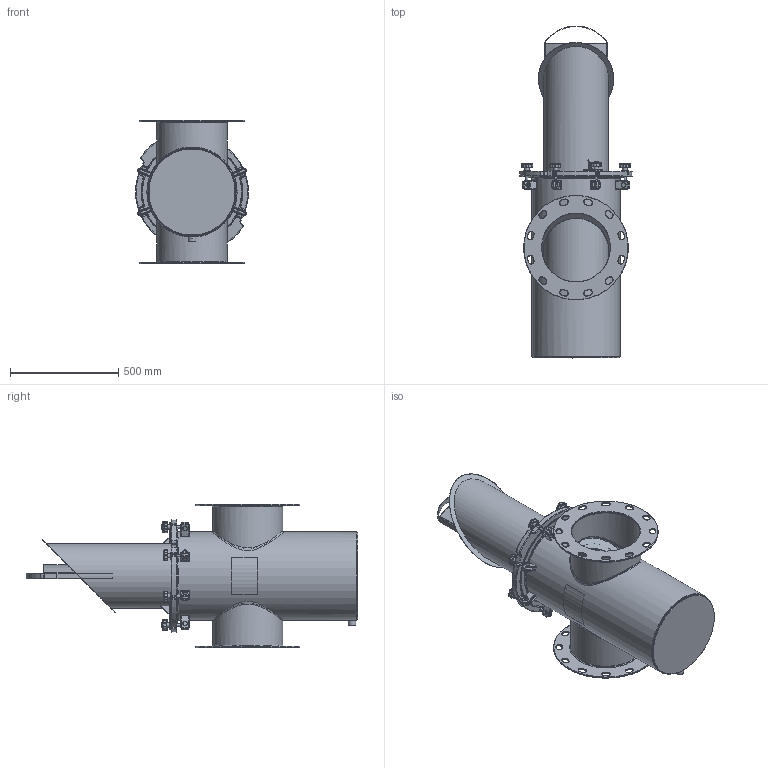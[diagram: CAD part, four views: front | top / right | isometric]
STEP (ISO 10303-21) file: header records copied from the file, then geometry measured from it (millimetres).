
FILE_DESCRIPTION(/* description */ ('16" STRAINER BODY'),/* implementation_level */ '2;1');
FILE_NAME(/* name */ 'C:\Users\r.kommineni.ext\Desktop\NB\CAD\Workspace\SS Straight\Guardian SS H&L Strainer (Inch)_CLEARANCE VOLUME\STRAINER H&L GUARDIAN 12(_DQ).stp',/* time_stamp */ '2017-06-09T13:08:27-04:00',/* author */ ('r.kommineni.ext'),/* organization */ (''),/* preprocessor_version */ 'ST-DEVELOPER v16.1',/* originating_system */ 'Autodesk Inventor 2016',/* authorisation */ '');
FILE_SCHEMA (('CONFIG_CONTROL_DESIGN'));
Length unit declared in the file: inch
Products named in the file (35): NBSSBODY12_Welds; FOR NBSSBODY12; FOR 16 DIA STRAINER BODY; FOR 16 DIA STRAINER BODY_1; 16 Body; ConcentricPipe-12(_DQ) - M; 12(_DQ); For 16 Body; ASME B16.11 Half Coupling Threaded - Class 3000 3_4 x 3_4; 16 Body_1; NBSSBODY12; 150NBCVR20R2; 150NBGSK16R1; Perforated Basket 16in; Bride (Ring) 16in; Baffle 16in; Handle 16in; Bottom Strainer 16in; BRACESTRCVR16_Welds; BRACE (BASE) FOR 16 BODY; BRACE (PROJ) FOR 16 BODY; Bumper; BRACESTRCVR16; Nut- 1_2  UNC; Bolt-1_2 x 1 1_2  UNC; EyeBolt; Washer; Knob M10; Securing Assembly with Brace; Securing Assembly without Brace; Label for 16 inch (Right); Label for 16 inch (Left); NBBSK10T316_clearance; NBBSK10T316_clearance_1; STRAINER H&L GUARDIAN 12(_DQ)
Assembly tree (70 placements, depth 3):
  STRAINER H&L GUARDIAN 12(_DQ)
    NBSSBODY12
      NBSSBODY12_Welds
      FOR NBSSBODY12
      FOR 16 DIA STRAINER BODY
      FOR 16 DIA STRAINER BODY_1
      16 Body  x4
      ConcentricPipe-12(_DQ) - M  x2
      12(_DQ)  x2
      For 16 Body
      ASME B16.11 Half Coupling Threaded - Class 3000 3_4 x 3_4
      16 Body_1  x16
    150NBCVR20R2
    150NBGSK16R1
    NBBSK10T316_clearance_1
      Perforated Basket 16in
      Bride (Ring) 16in
      Baffle 16in
      Handle 16in
      Bottom Strainer 16in
      NBBSK10T316_clearance
    BRACESTRCVR16
      BRACESTRCVR16_Welds
      BRACE (BASE) FOR 16 BODY
      BRACE (PROJ) FOR 16 BODY
      Bumper  x6
    Securing Assembly with Brace  x2
      Nut- 1_2  UNC
      Bolt-1_2 x 1 1_2  UNC
      EyeBolt
      Washer
      Knob M10
    Securing Assembly without Brace  x6
      Nut- 1_2  UNC
      Bolt-1_2 x 1 1_2  UNC
      EyeBolt
      Washer
      Knob M10
    Label for 16 inch (Right)
    Label for 16 inch (Left)
Bounding box: 519.38 x 1529.75 x 660.4 mm (x, y, z)
Volume: 16365707.3 mm3; surface area: 6640473.3 mm2
Topology: 109 solids, 112 shells, 2366 faces, 5260 edges, 3092 vertices
Faces by surface type: cylinder 848, plane 650, torus 420, cone 189, sphere 142, bspline 117
Full cylindrical faces by diameter (mm): 3.175 x11, 6.35 x1, 8.382 x8, 9.525 x16, 10.592 x8, 12.7 x8, 15.875 x16, 19 x16, 19.05 x8, 22.8 x1, 22.809 x1, 31.75 x8, 35.052 x1, 295.275 x2, 298.45 x2, 300.99 x1, 315.912 x2, 318.292 x4, 323.85 x6, 393.7 x3, 400.05 x2, 406.4 x2, 409.575 x1, 415.925 x1, 457.2 x1, 463.55 x1, 469.9 x1, 482.6 x2
Entity records: 36145 total; most frequent: CARTESIAN_POINT 12069, DIRECTION 5225, ORIENTED_EDGE 4313, EDGE_CURVE 2181, AXIS2_PLACEMENT_3D 2158, VERTEX_POINT 1355, EDGE_LOOP 1177, CIRCLE 1015
